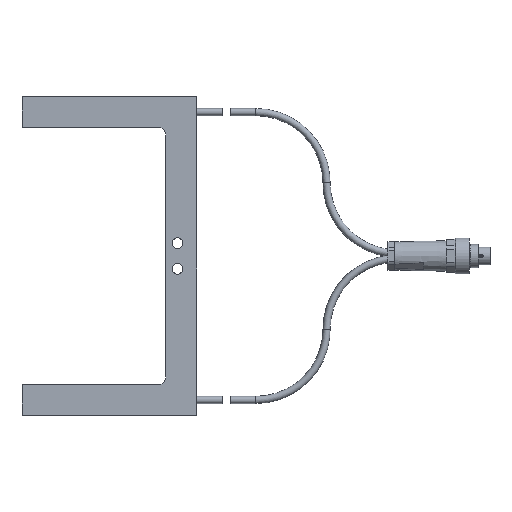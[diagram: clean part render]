
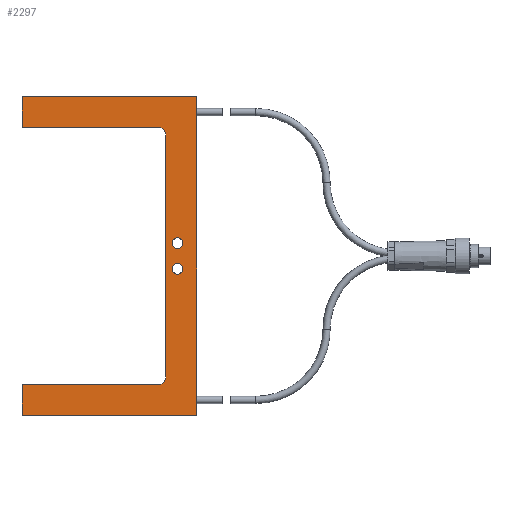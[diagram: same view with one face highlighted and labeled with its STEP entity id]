
A CAD part, top view. The second image highlights one B-rep face of the part: STEP entity #2297.
In plain terms, the highlighted planar face has unit normal (0, 0, 1).
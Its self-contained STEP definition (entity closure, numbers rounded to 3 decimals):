
#116=LINE($,#4063,#204);
#120=LINE($,#4075,#208);
#121=LINE($,#4079,#209);
#125=LINE($,#4087,#213);
#128=LINE($,#4093,#216);
#131=LINE($,#4098,#219);
#133=LINE($,#4102,#221);
#136=LINE($,#4107,#224);
#204=VECTOR($,#3263,94.);
#208=VECTOR($,#3275,53.);
#209=VECTOR($,#3278,68.);
#213=VECTOR($,#3284,124.);
#216=VECTOR($,#3289,53.);
#219=VECTOR($,#3294,12.);
#221=VECTOR($,#3298,12.);
#224=VECTOR($,#3303,68.);
#307=PLANE($,#2610);
#411=FACE_BOUND($,#801,.T.);
#412=FACE_BOUND($,#802,.T.);
#413=FACE_BOUND($,#803,.T.);
#801=EDGE_LOOP($,(#1911));
#802=EDGE_LOOP($,(#1912));
#803=EDGE_LOOP($,(#1913,#1914,#1915,#1916,#1917,#1918,#1919,#1920,#1921,
#1922));
#943=CIRCLE($,#2590,2.05);
#945=CIRCLE($,#2593,2.05);
#948=CIRCLE($,#2597,3.);
#950=CIRCLE($,#2601,3.);
#1123=VERTEX_POINT($,#4040);
#1125=VERTEX_POINT($,#4045);
#1129=VERTEX_POINT($,#4053);
#1130=VERTEX_POINT($,#4055);
#1132=VERTEX_POINT($,#4061);
#1134=VERTEX_POINT($,#4067);
#1136=VERTEX_POINT($,#4073);
#1137=VERTEX_POINT($,#4077);
#1138=VERTEX_POINT($,#4078);
#1141=VERTEX_POINT($,#4086);
#1143=VERTEX_POINT($,#4092);
#1145=VERTEX_POINT($,#4101);
#1369=EDGE_CURVE($,#1123,#1123,#943,.T.);
#1371=EDGE_CURVE($,#1125,#1125,#945,.T.);
#1375=EDGE_CURVE($,#1129,#1130,#948,.T.);
#1379=EDGE_CURVE($,#1132,#1129,#116,.T.);
#1382=EDGE_CURVE($,#1134,#1132,#950,.T.);
#1385=EDGE_CURVE($,#1136,#1134,#120,.T.);
#1386=EDGE_CURVE($,#1137,#1138,#121,.T.);
#1390=EDGE_CURVE($,#1138,#1141,#125,.T.);
#1393=EDGE_CURVE($,#1130,#1143,#128,.T.);
#1396=EDGE_CURVE($,#1143,#1137,#131,.T.);
#1398=EDGE_CURVE($,#1145,#1136,#133,.T.);
#1401=EDGE_CURVE($,#1141,#1145,#136,.T.);
#1911=ORIENTED_EDGE($,*,*,#1369,.T.);
#1912=ORIENTED_EDGE($,*,*,#1371,.T.);
#1913=ORIENTED_EDGE($,*,*,#1398,.F.);
#1914=ORIENTED_EDGE($,*,*,#1401,.F.);
#1915=ORIENTED_EDGE($,*,*,#1390,.F.);
#1916=ORIENTED_EDGE($,*,*,#1386,.F.);
#1917=ORIENTED_EDGE($,*,*,#1396,.F.);
#1918=ORIENTED_EDGE($,*,*,#1393,.F.);
#1919=ORIENTED_EDGE($,*,*,#1375,.F.);
#1920=ORIENTED_EDGE($,*,*,#1379,.F.);
#1921=ORIENTED_EDGE($,*,*,#1382,.F.);
#1922=ORIENTED_EDGE($,*,*,#1385,.F.);
#2297=ADVANCED_FACE($,(#411,#412,#413),#307,.T.);
#2590=AXIS2_PLACEMENT_3D($,#4041,#3241,#3242);
#2593=AXIS2_PLACEMENT_3D($,#4046,#3247,#3248);
#2597=AXIS2_PLACEMENT_3D($,#4056,#3256,#3257);
#2601=AXIS2_PLACEMENT_3D($,#4069,#3269,#3270);
#2610=AXIS2_PLACEMENT_3D($,#4110,#3307,#3308);
#3241=DIRECTION('center_axis',(0.,0.,-1.));
#3242=DIRECTION('ref_axis',(1.,0.,0.));
#3247=DIRECTION('center_axis',(0.,0.,-1.));
#3248=DIRECTION('ref_axis',(1.,0.,0.));
#3256=DIRECTION('center_axis',(0.,0.,1.));
#3257=DIRECTION('ref_axis',(0.707,0.707,0.));
#3263=DIRECTION($,(0.,1.,0.));
#3269=DIRECTION('center_axis',(0.,0.,1.));
#3270=DIRECTION('ref_axis',(0.707,-0.707,0.));
#3275=DIRECTION($,(1.,0.,0.));
#3278=DIRECTION($,(1.,0.,0.));
#3284=DIRECTION($,(0.,-1.,0.));
#3289=DIRECTION($,(-1.,0.,0.));
#3294=DIRECTION($,(0.,1.,0.));
#3298=DIRECTION($,(0.,1.,0.));
#3303=DIRECTION($,(-1.,0.,0.));
#3307=DIRECTION('center_axis',(0.,0.,1.));
#3308=DIRECTION('ref_axis',(1.,0.,0.));
#4040=CARTESIAN_POINT('',(28.55,5.,12.));
#4041=CARTESIAN_POINT('Origin',(26.5,5.,12.));
#4045=CARTESIAN_POINT('',(28.55,-5.,12.));
#4046=CARTESIAN_POINT('Origin',(26.5,-5.,12.));
#4053=CARTESIAN_POINT('',(22.,47.,12.));
#4055=CARTESIAN_POINT('',(19.,50.,12.));
#4056=CARTESIAN_POINT('Origin',(19.,47.,12.));
#4061=CARTESIAN_POINT('',(22.,-47.,12.));
#4063=CARTESIAN_POINT($,(22.,50.,12.));
#4067=CARTESIAN_POINT('',(19.,-50.,12.));
#4069=CARTESIAN_POINT('Origin',(19.,-47.,12.));
#4073=CARTESIAN_POINT('',(-34.,-50.,12.));
#4075=CARTESIAN_POINT($,(22.,-50.,12.));
#4077=CARTESIAN_POINT('',(-34.,62.,12.));
#4078=CARTESIAN_POINT('',(34.,62.,12.));
#4079=CARTESIAN_POINT($,(34.,62.,12.));
#4086=CARTESIAN_POINT('',(34.,-62.,12.));
#4087=CARTESIAN_POINT($,(34.,-62.,12.));
#4092=CARTESIAN_POINT('',(-34.,50.,12.));
#4093=CARTESIAN_POINT($,(-34.,50.,12.));
#4098=CARTESIAN_POINT($,(-34.,62.,12.));
#4101=CARTESIAN_POINT('',(-34.,-62.,12.));
#4102=CARTESIAN_POINT($,(-34.,-50.,12.));
#4107=CARTESIAN_POINT($,(-34.,-62.,12.));
#4110=CARTESIAN_POINT('Origin',(-31.,-56.,12.));
